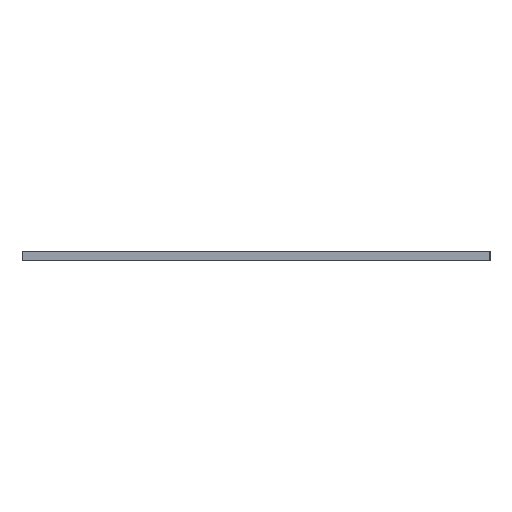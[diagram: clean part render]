
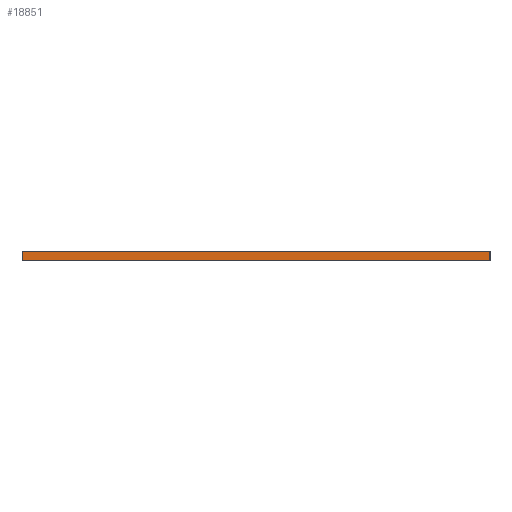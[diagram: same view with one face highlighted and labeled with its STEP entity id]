
A CAD part, left-side view. The second image highlights one B-rep face of the part: STEP entity #18851.
In plain terms, the highlighted planar face has unit normal (-1, 0, 0).
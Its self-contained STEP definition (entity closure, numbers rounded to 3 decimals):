
#3182=FACE_OUTER_BOUND('',#4610,.T.);
#4610=EDGE_LOOP('',(#16239,#16240,#16241,#16242));
#5690=LINE('',#32000,#7002);
#5920=LINE('',#33572,#7232);
#5921=LINE('',#33573,#7233);
#5922=LINE('',#33574,#7234);
#7002=VECTOR('',#21768,10.);
#7232=VECTOR('',#23794,10.);
#7233=VECTOR('',#23795,10.);
#7234=VECTOR('',#23796,10.);
#8430=VERTEX_POINT('',#31993);
#8433=VERTEX_POINT('',#31998);
#8876=VERTEX_POINT('',#33570);
#8877=VERTEX_POINT('',#33571);
#10668=EDGE_CURVE('',#8433,#8430,#5690,.T.);
#11332=EDGE_CURVE('',#8876,#8877,#5920,.T.);
#11333=EDGE_CURVE('',#8877,#8430,#5921,.T.);
#11334=EDGE_CURVE('',#8876,#8433,#5922,.T.);
#16239=ORIENTED_EDGE('',*,*,#11332,.T.);
#16240=ORIENTED_EDGE('',*,*,#11333,.T.);
#16241=ORIENTED_EDGE('',*,*,#10668,.F.);
#16242=ORIENTED_EDGE('',*,*,#11334,.F.);
#16805=PLANE('',#20076);
#18851=ADVANCED_FACE('',(#3182),#16805,.T.);
#20076=AXIS2_PLACEMENT_3D('',#33569,#23792,#23793);
#21768=DIRECTION('',(0.,-1.,0.));
#23792=DIRECTION('center_axis',(-1.,0.,0.));
#23793=DIRECTION('ref_axis',(0.,-1.,0.));
#23794=DIRECTION('',(0.,-1.,0.));
#23795=DIRECTION('',(0.,0.,1.));
#23796=DIRECTION('',(0.,0.,1.));
#31993=CARTESIAN_POINT('',(-90.,-50.,2.));
#31998=CARTESIAN_POINT('',(-90.,50.,2.));
#32000=CARTESIAN_POINT('',(-90.,50.,2.));
#33569=CARTESIAN_POINT('Origin',(-90.,50.,0.));
#33570=CARTESIAN_POINT('',(-90.,50.,0.));
#33571=CARTESIAN_POINT('',(-90.,-50.,0.));
#33572=CARTESIAN_POINT('',(-90.,50.,0.));
#33573=CARTESIAN_POINT('',(-90.,-50.,0.));
#33574=CARTESIAN_POINT('',(-90.,50.,0.));
